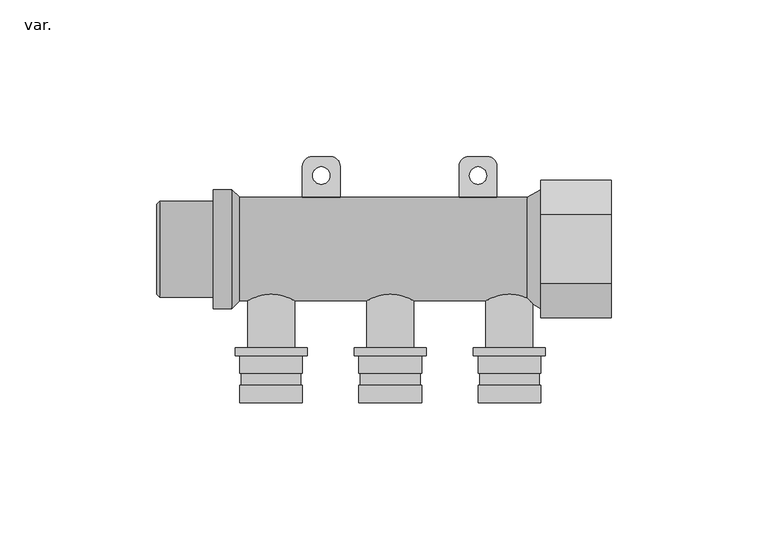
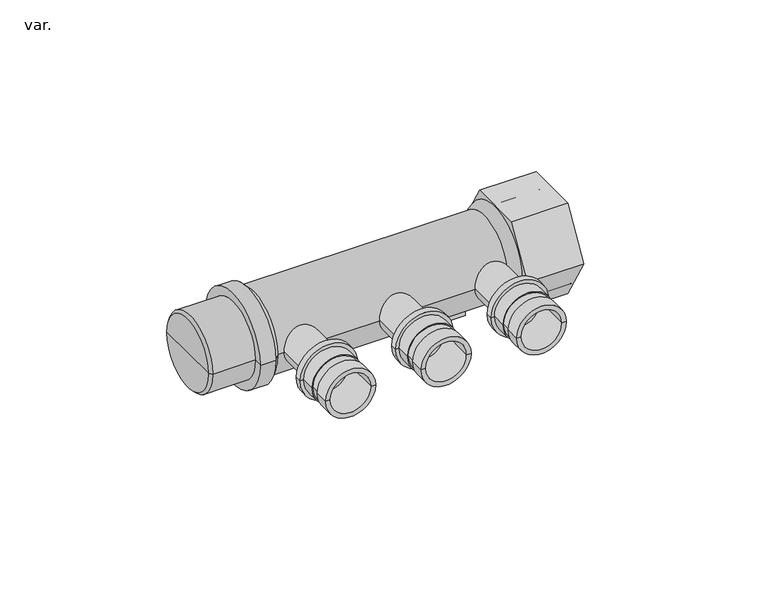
"""IFC4 building model written with IfcOpenShell, lengths in millimetres: pipe fitting geometry, AmancoWavin_ConexõesdeTubos_PEXMódulo de DistribuiçãoAberto1x16mm : var.."""

import ifcopenshell
import ifcopenshell.guid

model = None  # the IFC model being written
_history = None  # IfcOwnerHistory: only IFC2X3 demands one
_inside = {}  # id of a spatial element -> (the spatial element, [elements in it])
_under = {}  # id of a project, library or spatial element -> (it, [spatial elements below it])
_declared = {}  # id of a project -> (the project, [libraries it declares])
_typed = {}  # id of a type object -> (the type object, [elements of that type])
_made_of = {}  # id of a material, layer set ... -> (it, [elements and type objects made of it])


def new_model(schema):
    """Start an empty IFC model of exactly this schema.

    Asked for "IFC4X3", IfcOpenShell would pick the latest addendum, in which some entities
    have other attributes; the version numbers below select the first issue.
    IFC2X3 requires an IfcOwnerHistory on every rooted entity: one is made here for all.
    """
    global model, _history
    if schema == "IFC4X3":
        model = ifcopenshell.file(schema_version=(4, 3, 0, 0))
    else:
        model = ifcopenshell.file(schema=schema)
    _inside.clear()
    _under.clear()
    _declared.clear()
    _typed.clear()
    _made_of.clear()
    _history = None
    if model.schema == "IFC2X3":
        org = make("IfcOrganization", Name="unknown")
        user = make(
            "IfcPersonAndOrganization",
            ThePerson=make("IfcPerson", FamilyName="unknown"),
            TheOrganization=org,
        )
        app = make(
            "IfcApplication",
            ApplicationDeveloper=org,
            Version="unknown",
            ApplicationFullName="unknown",
            ApplicationIdentifier="unknown",
        )
        _history = make(
            "IfcOwnerHistory",
            OwningUser=user,
            OwningApplication=app,
            ChangeAction="ADDED",
            CreationDate=0,
        )
    return model


def make(cls, **values):
    """One entity of the class cls with the attributes given. An attribute that is None is left unset."""
    return model.create_entity(
        cls, **{name: value for name, value in values.items() if value is not None}
    )


def rooted(cls, **values):
    """An entity with a GlobalId (a new one), such as an element, a storey or a relation."""
    return make(cls, GlobalId=ifcopenshell.guid.new(), OwnerHistory=_history, **values)


def si_unit(unit_type, name, prefix=None):
    """IfcSIUnit, for example si_unit("LENGTHUNIT", "METRE", prefix="MILLI")."""
    return make("IfcSIUnit", UnitType=unit_type, Prefix=prefix, Name=name)


def assignment(units):
    """IfcUnitAssignment: the units of a project."""
    return None if units is None else make("IfcUnitAssignment", Units=units)


def point(xyz):
    """IfcCartesianPoint."""
    return None if xyz is None else make("IfcCartesianPoint", Coordinates=xyz)


def direction(xyz):
    """IfcDirection."""
    return None if xyz is None else make("IfcDirection", DirectionRatios=xyz)


def frame(location, z_axis=None, x_axis=None):
    """IfcAxis2Placement3D, a coordinate frame: its origin and axes. An axis left out is left unset."""
    return make(
        "IfcAxis2Placement3D",
        Location=point(location),
        Axis=direction(z_axis),
        RefDirection=direction(x_axis),
    )


def frame_2d(location, x_axis=None):
    """IfcAxis2Placement2D, a coordinate frame in the plane: its origin and x axis."""
    return make(
        "IfcAxis2Placement2D", Location=point(location), RefDirection=direction(x_axis)
    )


def origin():
    """The frame at (0, 0, 0) with its axes left unset."""
    return frame((0.0, 0.0, 0.0))


def origin_2d():
    """The frame at (0, 0) in the plane with its x axis left unset."""
    return frame_2d((0.0, 0.0))


def place(relative_to, where):
    """IfcLocalPlacement: puts the frame where relative to a parent placement (None: the world)."""
    return make(
        "IfcLocalPlacement", PlacementRelTo=relative_to, RelativePlacement=where
    )


def context(
    kind, dimensions, precision=None, world=None, true_north=None, identifier=None
):
    """IfcGeometricRepresentationContext, for example the 3D "Model" context."""
    return make(
        "IfcGeometricRepresentationContext",
        ContextIdentifier=identifier,
        ContextType=kind,
        CoordinateSpaceDimension=dimensions,
        Precision=precision,
        WorldCoordinateSystem=world,
        TrueNorth=true_north,
    )


def project(units=None, contexts=None):
    """IfcProject with its units and contexts."""
    return rooted(
        "IfcProject",
        Name="project",
        RepresentationContexts=contexts,
        UnitsInContext=assignment(units),
    )


def spatial(cls, under=None, at=None, **own):
    """A site, building, storey or space (cls), placed at a placement, below another one or the project."""
    s = rooted(cls, ObjectPlacement=at, **own)
    if under is not None:
        _under.setdefault(under.id(), (under, []))[1].append(s)
    return s


def polyline(points):
    """IfcPolyline through the points."""
    return make("IfcPolyline", Points=[point(p) for p in points])


def circle_curve(where, radius):
    """IfcCircle in the frame where."""
    return make("IfcCircle", Position=where, Radius=radius)


def trimmed(basis, trim1, trim2, sense, master):
    """IfcTrimmedCurve: the piece of a basis curve between two trims."""
    return make(
        "IfcTrimmedCurve",
        BasisCurve=basis,
        Trim1=trim1,
        Trim2=trim2,
        SenseAgreement=sense,
        MasterRepresentation=master,
    )


def segment(curve, same_sense, transition):
    """IfcCompositeCurveSegment."""
    return make(
        "IfcCompositeCurveSegment",
        Transition=transition,
        SameSense=same_sense,
        ParentCurve=curve,
    )


def composite_curve(segments, self_intersect=None):
    """IfcCompositeCurve: segments joined end to end."""
    return make("IfcCompositeCurve", Segments=segments, SelfIntersect=self_intersect)


def outline(outer, holes=None, kind="AREA"):
    """IfcArbitraryClosedProfileDef: a profile drawn as a closed curve; with holes, ...WithVoids."""
    if holes is None:
        return make("IfcArbitraryClosedProfileDef", ProfileType=kind, OuterCurve=outer)
    return make(
        "IfcArbitraryProfileDefWithVoids",
        ProfileType=kind,
        OuterCurve=outer,
        InnerCurves=holes,
    )


def extrude(swept, where, along, depth):
    """IfcExtrudedAreaSolid: the profile swept, set in the frame where, extruded along a direction by depth."""
    return make(
        "IfcExtrudedAreaSolid",
        SweptArea=swept,
        Position=where,
        ExtrudedDirection=direction(along),
        Depth=depth,
    )


def shape(context_of_items, identifier, shape_type, items):
    """IfcShapeRepresentation: the items that make up one representation, for example the "Body"."""
    return make(
        "IfcShapeRepresentation",
        ContextOfItems=context_of_items,
        RepresentationIdentifier=identifier,
        RepresentationType=shape_type,
        Items=items,
    )


def source(mapping_origin, context_of_items, identifier, shape_type, items):
    """IfcRepresentationMap: a shape defined once, which mapped items show again and again."""
    return make(
        "IfcRepresentationMap",
        MappingOrigin=mapping_origin,
        MappedRepresentation=shape(context_of_items, identifier, shape_type, items),
    )


def transform(
    local_origin,
    x_axis=None,
    y_axis=None,
    z_axis=None,
    scale=None,
    scale2=None,
    scale3=None,
    uniform=True,
):
    """IfcCartesianTransformationOperator3D, or its non-uniform kind. x_axis, y_axis, z_axis: its Axis1, 2, 3."""
    if uniform:
        return make(
            "IfcCartesianTransformationOperator3D",
            Axis1=direction(x_axis),
            Axis2=direction(y_axis),
            LocalOrigin=point(local_origin),
            Scale=scale,
            Axis3=direction(z_axis),
        )
    return make(
        "IfcCartesianTransformationOperator3DnonUniform",
        Axis1=direction(x_axis),
        Axis2=direction(y_axis),
        LocalOrigin=point(local_origin),
        Scale=scale,
        Axis3=direction(z_axis),
        Scale2=scale2,
        Scale3=scale3,
    )


def mapped(mapping_source, mapping_target):
    """IfcMappedItem: shows the shape of a source again, moved by a transform."""
    return make(
        "IfcMappedItem", MappingSource=mapping_source, MappingTarget=mapping_target
    )


def made_of(thing, what):
    """Note that an element or type object is made of a material, layer set ...; save() writes the relation."""
    if what is not None:
        _made_of.setdefault(what.id(), (what, []))[1].append(thing)
    return thing


def element(
    cls,
    number,
    at=None,
    inside=None,
    cuts=None,
    type_object=None,
    material=None,
    context=None,
    identifier="Body",
    shape_type=None,
    held_by="IfcProductDefinitionShape",
    body=None,
    shapes=None,
    **own,
):
    """One element of the class cls, such as IfcWall. Its Tag is "e" and its number.

    at: its placement. inside: the storey or other place that contains it. cuts: it is an
    opening in that element (IfcRelVoidsElement). A single representation is given by context,
    identifier, shape_type and body (its items); several are given by shapes. held_by: the class
    of the entity that holds the representations. save() writes the other relations.
    """
    e = rooted(cls, Tag="e%d" % number, ObjectPlacement=at, **own)
    if body is not None:
        shapes = [shape(context, identifier, shape_type, body)]
    if shapes is not None:
        e.Representation = make(held_by, Representations=shapes)
    if inside is not None:
        _inside.setdefault(inside.id(), (inside, []))[1].append(e)
    if cuts is not None:
        rooted(
            "IfcRelVoidsElement", RelatingBuildingElement=cuts, RelatedOpeningElement=e
        )
    if type_object is not None:
        _typed.setdefault(type_object.id(), (type_object, []))[1].append(e)
    return made_of(e, material)


def aggregate(whole, parts):
    """IfcRelAggregates: a whole, such as a stair, and the parts it consists of."""
    return rooted("IfcRelAggregates", RelatingObject=whole, RelatedObjects=parts)


def save(model, path):
    """Write the relations noted so far, then the file.

    IfcRelAggregates (storeys below a building ...), IfcRelContainedInSpatialStructure (elements
    in a storey), IfcRelDefinesByType, IfcRelAssociatesMaterial and IfcRelDeclares: one each for
    every whole, place, type object, material and project.
    """
    for whole, parts in _under.values():
        aggregate(whole, parts)
    for where, things in _inside.values():
        rooted(
            "IfcRelContainedInSpatialStructure",
            RelatedElements=things,
            RelatingStructure=where,
        )
    for kind, things in _typed.values():
        rooted("IfcRelDefinesByType", RelatedObjects=things, RelatingType=kind)
    for what, things in _made_of.values():
        rooted("IfcRelAssociatesMaterial", RelatedObjects=things, RelatingMaterial=what)
    for by, libraries in _declared.values():
        rooted("IfcRelDeclares", RelatingContext=by, RelatedDefinitions=libraries)
    model.write(path)


def plane_surface(at):
    """IfcPlane: the flat surface through the origin of the frame at, square to its z axis."""
    return make("IfcPlane", Position=at)


def cylinder_surface(at, radius):
    """IfcCylindricalSurface: all points at the distance radius from the z axis of the frame at."""
    return make("IfcCylindricalSurface", Position=at, Radius=radius)


def revolved_surface(curve, axis_point, axis_direction):
    """IfcSurfaceOfRevolution: the curve turned about the line through axis_point along axis_direction."""
    return make(
        "IfcSurfaceOfRevolution",
        SweptCurve=make("IfcArbitraryOpenProfileDef", ProfileType="CURVE", Curve=curve),
        AxisPosition=make("IfcAxis1Placement", Location=point(axis_point), Axis=direction(axis_direction)),
    )


def advanced_brep(points, edges, surfaces, faces):
    """IfcAdvancedBrep: a solid bounded by faces that lie on surfaces and meet in shared edges.

    An edge is (start, end): straight between two places in points (the first is 0);
    or (start, end, curve); or (start, end, curve, False) where it runs against its curve.
    A face is (place in surfaces, loops), or (place, loops, False) where it looks against
    its surface's normal. A loop lists edges by number (the first is 1), with a minus sign
    where the edge is run from its end to its start. The first loop is the outer one.
    """
    corners = [point(p) for p in points]
    vertices = [make("IfcVertexPoint", VertexGeometry=c) for c in corners]
    made = []
    for start, end, *more in edges:
        made.append(
            make(
                "IfcEdgeCurve",
                EdgeStart=vertices[start],
                EdgeEnd=vertices[end],
                EdgeGeometry=more[0] if more else make("IfcPolyline", Points=[corners[start], corners[end]]),
                SameSense=more[1] if len(more) > 1 else True,
            )
        )
    hull = []
    for where, loops, *sense in faces:
        bounds = []
        for j, loop in enumerate(loops):
            ring = [make("IfcOrientedEdge", EdgeElement=made[abs(k) - 1], Orientation=k > 0) for k in loop]
            bounds.append(
                make(
                    "IfcFaceOuterBound" if j == 0 else "IfcFaceBound",
                    Bound=make("IfcEdgeLoop", EdgeList=ring),
                    Orientation=True,
                )
            )
        hull.append(make("IfcAdvancedFace", Bounds=bounds, FaceSurface=surfaces[where], SameSense=sense[0] if sense else True))
    return make("IfcAdvancedBrep", Outer=make("IfcClosedShell", CfsFaces=hull))


def var_b4d6ae51(model_context):
    return source(origin(), model_context, "Body", "SolidModel", [
        advanced_brep(
        [(122.5, -49.0, 0.0), (102.5, -49.0, 0.0), (102.5, -43.375, 0.0), (122.5, -43.375, 0.0), (120.675, -49.0, 0.0), (104.325, -49.0, 0.0), (120.675, -34.0, 0.0), (104.325, -34.0, 0.0), (122.5, -34.0, 0.0), (102.5, -34.0, 0.0), (122.5, -39.625, 0.0), (102.5, -39.625, 0.0), (103.0, -43.375, 0.0), (122.0, -43.375, 0.0), (103.0, -39.625, 0.0), (122.0, -39.625, 0.0)],
        [
            (0, 1, circle_curve(frame((112.5, -49.0, 0.0), z_axis=(0.0, 1.0, 0.0), x_axis=(-1.0, 0.0, 0.0)), 10.0)),
            (1, 2),
            (2, 3, circle_curve(frame((112.5, -43.375, 0.0), z_axis=(0.0, -1.0, 0.0), x_axis=(-1.0, 0.0, 0.0)), 10.0)),
            (3, 0),
            (1, 0, circle_curve(frame((112.5, -49.0, 0.0), z_axis=(0.0, 1.0, 0.0), x_axis=(-1.0, 0.0, 0.0)), 10.0)),
            (3, 2, circle_curve(frame((112.5, -43.375, 0.0), z_axis=(0.0, -1.0, 0.0), x_axis=(-1.0, 0.0, 0.0)), 10.0)),
            (0, 4),
            (4, 5, circle_curve(frame((112.5, -49.0, 0.0), z_axis=(0.0, 1.0, 0.0), x_axis=(-1.0, 0.0, 0.0)), 8.175)),
            (5, 1),
            (5, 4, circle_curve(frame((112.5, -49.0, 0.0), z_axis=(0.0, 1.0, 0.0), x_axis=(-1.0, 0.0, 0.0)), 8.175)),
            (4, 6),
            (6, 7, circle_curve(frame((112.5, -34.0, 0.0), z_axis=(0.0, 1.0, 0.0), x_axis=(-1.0, 0.0, 0.0)), 8.175)),
            (7, 5),
            (7, 6, circle_curve(frame((112.5, -34.0, 0.0), z_axis=(0.0, 1.0, 0.0), x_axis=(-1.0, 0.0, 0.0)), 8.175)),
            (6, 8),
            (8, 9, circle_curve(frame((112.5, -34.0, 0.0), z_axis=(0.0, 1.0, 0.0), x_axis=(-1.0, 0.0, 0.0)), 10.0)),
            (9, 7),
            (9, 8, circle_curve(frame((112.5, -34.0, 0.0), z_axis=(0.0, 1.0, 0.0), x_axis=(-1.0, 0.0, 0.0)), 10.0)),
            (8, 10),
            (10, 11, circle_curve(frame((112.5, -39.625, 0.0), z_axis=(0.0, 1.0, 0.0), x_axis=(-1.0, 0.0, 0.0)), 10.0)),
            (11, 9),
            (11, 10, circle_curve(frame((112.5, -39.625, 0.0), z_axis=(0.0, 1.0, 0.0), x_axis=(-1.0, 0.0, 0.0)), 10.0)),
            (12, 13, circle_curve(frame((112.5, -43.375, 0.0), z_axis=(0.0, -1.0, 0.0), x_axis=(-1.0, 0.0, 0.0)), 9.5)),
            (13, 3),
            (2, 12),
            (13, 12, circle_curve(frame((112.5, -43.375, 0.0), z_axis=(0.0, -1.0, 0.0), x_axis=(-1.0, 0.0, 0.0)), 9.5)),
            (12, 14),
            (14, 15, circle_curve(frame((112.5, -39.625, 0.0), z_axis=(0.0, -1.0, 0.0), x_axis=(-1.0, 0.0, 0.0)), 9.5)),
            (15, 13),
            (15, 14, circle_curve(frame((112.5, -39.625, 0.0), z_axis=(0.0, -1.0, 0.0), x_axis=(-1.0, 0.0, 0.0)), 9.5)),
            (14, 11),
            (10, 15),
        ],
        [
            cylinder_surface(frame((112.5, -2043.1007619, 0.0), z_axis=(0.0, -1.0, 0.0), x_axis=(-1.0, 0.0, 0.0)), 10.0),
            plane_surface(frame((112.5, -49.0, 0.0), z_axis=(0.0, -1.0, 0.0), x_axis=(-1.0, 0.0, 0.0))),
            revolved_surface(polyline([(104.325, -49.0, 0.0), (104.325, -34.0, 0.0)]), (112.5, -2043.1007619, 0.0), (0.0, -1.0, 0.0)),
            plane_surface(frame((112.5, -34.0, 0.0), z_axis=(0.0, 1.0, 0.0), x_axis=(-1.0, 0.0, 0.0))),
            plane_surface(frame((112.5, -43.375, 0.0), z_axis=(0.0, 1.0, 0.0), x_axis=(-1.0, 0.0, 0.0))),
            cylinder_surface(frame((112.5, -2043.1007619, 0.0), z_axis=(0.0, -1.0, 0.0), x_axis=(-1.0, 0.0, 0.0)), 9.5),
            plane_surface(frame((112.5, -39.625, 0.0), z_axis=(0.0, -1.0, 0.0), x_axis=(-1.0, 0.0, 0.0))),
        ],
        [
            (0, [[1, 2, 3, 4]]),
            (0, [[5, -4, 6, -2]]),
            (1, [[-1, 7, 8, 9]]),
            (1, [[-5, -9, 10, -7]]),
            (2, [[-8, 11, 12, 13]]),
            (2, [[-10, -13, 14, -11]]),
            (3, [[-12, 15, 16, 17]]),
            (3, [[-14, -17, 18, -15]]),
            (0, [[-16, 19, 20, 21]]),
            (0, [[-18, -21, 22, -19]]),
            (4, [[23, 24, -3, 25]]),
            (4, [[26, -25, -6, -24]]),
            (5, [[-23, 27, 28, 29]]),
            (5, [[-26, -29, 30, -27]]),
            (6, [[-28, 31, -20, 32]]),
            (6, [[-30, -32, -22, -31]]),
        ],
    ),
        advanced_brep(
        [(84.5, -49.0, 0.0), (64.5, -49.0, 0.0), (64.5, -43.375, 0.0), (84.5, -43.375, 0.0), (82.675, -49.0, 0.0), (66.325, -49.0, 0.0), (82.675, -34.0, 0.0), (66.325, -34.0, 0.0), (84.5, -34.0, 0.0), (64.5, -34.0, 0.0), (84.5, -39.625, 0.0), (64.5, -39.625, 0.0), (65.0, -43.375, 0.0), (84.0, -43.375, 0.0), (65.0, -39.625, 0.0), (84.0, -39.625, 0.0)],
        [
            (0, 1, circle_curve(frame((74.5, -49.0, 0.0), z_axis=(0.0, 1.0, 0.0), x_axis=(-1.0, 0.0, 0.0)), 10.0)),
            (1, 2),
            (2, 3, circle_curve(frame((74.5, -43.375, 0.0), z_axis=(0.0, -1.0, 0.0), x_axis=(-1.0, 0.0, 0.0)), 10.0)),
            (3, 0),
            (1, 0, circle_curve(frame((74.5, -49.0, 0.0), z_axis=(0.0, 1.0, 0.0), x_axis=(-1.0, 0.0, 0.0)), 10.0)),
            (3, 2, circle_curve(frame((74.5, -43.375, 0.0), z_axis=(0.0, -1.0, 0.0), x_axis=(-1.0, 0.0, 0.0)), 10.0)),
            (0, 4),
            (4, 5, circle_curve(frame((74.5, -49.0, 0.0), z_axis=(0.0, 1.0, 0.0), x_axis=(-1.0, 0.0, 0.0)), 8.175)),
            (5, 1),
            (5, 4, circle_curve(frame((74.5, -49.0, 0.0), z_axis=(0.0, 1.0, 0.0), x_axis=(-1.0, 0.0, 0.0)), 8.175)),
            (4, 6),
            (6, 7, circle_curve(frame((74.5, -34.0, 0.0), z_axis=(0.0, 1.0, 0.0), x_axis=(-1.0, 0.0, 0.0)), 8.175)),
            (7, 5),
            (7, 6, circle_curve(frame((74.5, -34.0, 0.0), z_axis=(0.0, 1.0, 0.0), x_axis=(-1.0, 0.0, 0.0)), 8.175)),
            (6, 8),
            (8, 9, circle_curve(frame((74.5, -34.0, 0.0), z_axis=(0.0, 1.0, 0.0), x_axis=(-1.0, 0.0, 0.0)), 10.0)),
            (9, 7),
            (9, 8, circle_curve(frame((74.5, -34.0, 0.0), z_axis=(0.0, 1.0, 0.0), x_axis=(-1.0, 0.0, 0.0)), 10.0)),
            (8, 10),
            (10, 11, circle_curve(frame((74.5, -39.625, 0.0), z_axis=(0.0, 1.0, 0.0), x_axis=(-1.0, 0.0, 0.0)), 10.0)),
            (11, 9),
            (11, 10, circle_curve(frame((74.5, -39.625, 0.0), z_axis=(0.0, 1.0, 0.0), x_axis=(-1.0, 0.0, 0.0)), 10.0)),
            (12, 13, circle_curve(frame((74.5, -43.375, 0.0), z_axis=(0.0, -1.0, 0.0), x_axis=(-1.0, 0.0, 0.0)), 9.5)),
            (13, 3),
            (2, 12),
            (13, 12, circle_curve(frame((74.5, -43.375, 0.0), z_axis=(0.0, -1.0, 0.0), x_axis=(-1.0, 0.0, 0.0)), 9.5)),
            (12, 14),
            (14, 15, circle_curve(frame((74.5, -39.625, 0.0), z_axis=(0.0, -1.0, 0.0), x_axis=(-1.0, 0.0, 0.0)), 9.5)),
            (15, 13),
            (15, 14, circle_curve(frame((74.5, -39.625, 0.0), z_axis=(0.0, -1.0, 0.0), x_axis=(-1.0, 0.0, 0.0)), 9.5)),
            (14, 11),
            (10, 15),
        ],
        [
            cylinder_surface(frame((74.5, -2043.1007619, 0.0), z_axis=(0.0, -1.0, 0.0), x_axis=(-1.0, 0.0, 0.0)), 10.0),
            plane_surface(frame((74.5, -49.0, 0.0), z_axis=(0.0, -1.0, 0.0), x_axis=(-1.0, 0.0, 0.0))),
            revolved_surface(polyline([(66.325, -49.0, 0.0), (66.325, -34.0, 0.0)]), (74.5, -2043.1007619, 0.0), (0.0, -1.0, 0.0)),
            plane_surface(frame((74.5, -34.0, 0.0), z_axis=(0.0, 1.0, 0.0), x_axis=(-1.0, 0.0, 0.0))),
            plane_surface(frame((74.5, -43.375, 0.0), z_axis=(0.0, 1.0, 0.0), x_axis=(-1.0, 0.0, 0.0))),
            cylinder_surface(frame((74.5, -2043.1007619, 0.0), z_axis=(0.0, -1.0, 0.0), x_axis=(-1.0, 0.0, 0.0)), 9.5),
            plane_surface(frame((74.5, -39.625, 0.0), z_axis=(0.0, -1.0, 0.0), x_axis=(-1.0, 0.0, 0.0))),
        ],
        [
            (0, [[1, 2, 3, 4]]),
            (0, [[5, -4, 6, -2]]),
            (1, [[-1, 7, 8, 9]]),
            (1, [[-5, -9, 10, -7]]),
            (2, [[-8, 11, 12, 13]]),
            (2, [[-10, -13, 14, -11]]),
            (3, [[-12, 15, 16, 17]]),
            (3, [[-14, -17, 18, -15]]),
            (0, [[-16, 19, 20, 21]]),
            (0, [[-18, -21, 22, -19]]),
            (4, [[23, 24, -3, 25]]),
            (4, [[26, -25, -6, -24]]),
            (5, [[-23, 27, 28, 29]]),
            (5, [[-26, -29, 30, -27]]),
            (6, [[-28, 31, -20, 32]]),
            (6, [[-30, -32, -22, -31]]),
        ],
    ),
        advanced_brep(
        [(46.5, -49.0, 0.0), (26.5, -49.0, 0.0), (26.5, -43.375, 0.0), (46.5, -43.375, 0.0), (44.675, -49.0, 0.0), (28.325, -49.0, 0.0), (44.675, -34.0, 0.0), (28.325, -34.0, 0.0), (46.5, -34.0, 0.0), (26.5, -34.0, 0.0), (46.5, -39.625, 0.0), (26.5, -39.625, 0.0), (27.0, -43.375, 0.0), (46.0, -43.375, 0.0), (27.0, -39.625, 0.0), (46.0, -39.625, 0.0)],
        [
            (0, 1, circle_curve(frame((36.5, -49.0, 0.0), z_axis=(0.0, 1.0, 0.0), x_axis=(-1.0, 0.0, 0.0)), 10.0)),
            (1, 2),
            (2, 3, circle_curve(frame((36.5, -43.375, 0.0), z_axis=(0.0, -1.0, 0.0), x_axis=(-1.0, 0.0, 0.0)), 10.0)),
            (3, 0),
            (1, 0, circle_curve(frame((36.5, -49.0, 0.0), z_axis=(0.0, 1.0, 0.0), x_axis=(-1.0, 0.0, 0.0)), 10.0)),
            (3, 2, circle_curve(frame((36.5, -43.375, 0.0), z_axis=(0.0, -1.0, 0.0), x_axis=(-1.0, 0.0, 0.0)), 10.0)),
            (0, 4),
            (4, 5, circle_curve(frame((36.5, -49.0, 0.0), z_axis=(0.0, 1.0, 0.0), x_axis=(-1.0, 0.0, 0.0)), 8.175)),
            (5, 1),
            (5, 4, circle_curve(frame((36.5, -49.0, 0.0), z_axis=(0.0, 1.0, 0.0), x_axis=(-1.0, 0.0, 0.0)), 8.175)),
            (4, 6),
            (6, 7, circle_curve(frame((36.5, -34.0, 0.0), z_axis=(0.0, 1.0, 0.0), x_axis=(-1.0, 0.0, 0.0)), 8.175)),
            (7, 5),
            (7, 6, circle_curve(frame((36.5, -34.0, 0.0), z_axis=(0.0, 1.0, 0.0), x_axis=(-1.0, 0.0, 0.0)), 8.175)),
            (6, 8),
            (8, 9, circle_curve(frame((36.5, -34.0, 0.0), z_axis=(0.0, 1.0, 0.0), x_axis=(-1.0, 0.0, 0.0)), 10.0)),
            (9, 7),
            (9, 8, circle_curve(frame((36.5, -34.0, 0.0), z_axis=(0.0, 1.0, 0.0), x_axis=(-1.0, 0.0, 0.0)), 10.0)),
            (8, 10),
            (10, 11, circle_curve(frame((36.5, -39.625, 0.0), z_axis=(0.0, 1.0, 0.0), x_axis=(-1.0, 0.0, 0.0)), 10.0)),
            (11, 9),
            (11, 10, circle_curve(frame((36.5, -39.625, 0.0), z_axis=(0.0, 1.0, 0.0), x_axis=(-1.0, 0.0, 0.0)), 10.0)),
            (12, 13, circle_curve(frame((36.5, -43.375, 0.0), z_axis=(0.0, -1.0, 0.0), x_axis=(-1.0, 0.0, 0.0)), 9.5)),
            (13, 3),
            (2, 12),
            (13, 12, circle_curve(frame((36.5, -43.375, 0.0), z_axis=(0.0, -1.0, 0.0), x_axis=(-1.0, 0.0, 0.0)), 9.5)),
            (12, 14),
            (14, 15, circle_curve(frame((36.5, -39.625, 0.0), z_axis=(0.0, -1.0, 0.0), x_axis=(-1.0, 0.0, 0.0)), 9.5)),
            (15, 13),
            (15, 14, circle_curve(frame((36.5, -39.625, 0.0), z_axis=(0.0, -1.0, 0.0), x_axis=(-1.0, 0.0, 0.0)), 9.5)),
            (14, 11),
            (10, 15),
        ],
        [
            cylinder_surface(frame((36.5, -2043.1007619, 0.0), z_axis=(0.0, -1.0, 0.0), x_axis=(-1.0, 0.0, 0.0)), 10.0),
            plane_surface(frame((36.5, -49.0, 0.0), z_axis=(0.0, -1.0, 0.0), x_axis=(-1.0, 0.0, 0.0))),
            revolved_surface(polyline([(28.325, -49.0, 0.0), (28.325, -34.0, 0.0)]), (36.5, -2043.1007619, 0.0), (0.0, -1.0, 0.0)),
            plane_surface(frame((36.5, -34.0, 0.0), z_axis=(0.0, 1.0, 0.0), x_axis=(-1.0, 0.0, 0.0))),
            plane_surface(frame((36.5, -43.375, 0.0), z_axis=(0.0, 1.0, 0.0), x_axis=(-1.0, 0.0, 0.0))),
            cylinder_surface(frame((36.5, -2043.1007619, 0.0), z_axis=(0.0, -1.0, 0.0), x_axis=(-1.0, 0.0, 0.0)), 9.5),
            plane_surface(frame((36.5, -39.625, 0.0), z_axis=(0.0, -1.0, 0.0), x_axis=(-1.0, 0.0, 0.0))),
        ],
        [
            (0, [[1, 2, 3, 4]]),
            (0, [[5, -4, 6, -2]]),
            (1, [[-1, 7, 8, 9]]),
            (1, [[-5, -9, 10, -7]]),
            (2, [[-8, 11, 12, 13]]),
            (2, [[-10, -13, 14, -11]]),
            (3, [[-12, 15, 16, 17]]),
            (3, [[-14, -17, 18, -15]]),
            (0, [[-16, 19, 20, 21]]),
            (0, [[-18, -21, 22, -19]]),
            (4, [[23, 24, -3, 25]]),
            (4, [[26, -25, -6, -24]]),
            (5, [[-23, 27, 28, 29]]),
            (5, [[-26, -29, 30, -27]]),
            (6, [[-28, 31, -20, 32]]),
            (6, [[-30, -32, -22, -31]]),
        ],
    ),
        advanced_brep(
        [(120.0, 0.0, 0.0), (105.0, 0.0, 0.0), (112.5, 0.0, 0.0), (120.0, -31.5, 0.0), (105.0, -31.5, 0.0), (124.0, -31.5, 0.0), (101.0, -31.5, 0.0), (124.0, -34.0, 0.0), (101.0, -34.0, 0.0), (112.5, -34.0, 0.0)],
        [
            (0, 1, circle_curve(frame((112.5, 0.0, 0.0), z_axis=(0.0, 1.0, 0.0), x_axis=(-1.0, 0.0, 0.0)), 7.5)),
            (1, 2),
            (2, 0),
            (1, 0, circle_curve(frame((112.5, 0.0, 0.0), z_axis=(0.0, 1.0, 0.0), x_axis=(-1.0, 0.0, 0.0)), 7.5)),
            (3, 4, circle_curve(frame((112.5, -31.5, 0.0), z_axis=(0.0, 1.0, 0.0), x_axis=(-1.0, 0.0, 0.0)), 7.5)),
            (4, 1),
            (0, 3),
            (4, 3, circle_curve(frame((112.5, -31.5, 0.0), z_axis=(0.0, 1.0, 0.0), x_axis=(-1.0, 0.0, 0.0)), 7.5)),
            (5, 6, circle_curve(frame((112.5, -31.5, 0.0), z_axis=(0.0, 1.0, 0.0), x_axis=(-1.0, 0.0, 0.0)), 11.5)),
            (6, 4),
            (3, 5),
            (6, 5, circle_curve(frame((112.5, -31.5, 0.0), z_axis=(0.0, 1.0, 0.0), x_axis=(-1.0, 0.0, 0.0)), 11.5)),
            (7, 8, circle_curve(frame((112.5, -34.0, 0.0), z_axis=(0.0, 1.0, 0.0), x_axis=(-1.0, 0.0, 0.0)), 11.5)),
            (8, 6),
            (5, 7),
            (8, 7, circle_curve(frame((112.5, -34.0, 0.0), z_axis=(0.0, 1.0, 0.0), x_axis=(-1.0, 0.0, 0.0)), 11.5)),
            (9, 8),
            (7, 9),
        ],
        [
            plane_surface(frame((112.5, 0.0, 0.0), z_axis=(0.0, 1.0, 0.0), x_axis=(-1.0, 0.0, 0.0))),
            cylinder_surface(frame((112.5, 0.0, 0.0), z_axis=(0.0, -1.0, 0.0), x_axis=(-1.0, 0.0, 0.0)), 7.5),
            plane_surface(frame((112.5, -31.5, 0.0), z_axis=(0.0, 1.0, 0.0), x_axis=(-1.0, 0.0, 0.0))),
            cylinder_surface(frame((112.5, 0.0, 0.0), z_axis=(0.0, -1.0, 0.0), x_axis=(-1.0, 0.0, 0.0)), 11.5),
            plane_surface(frame((112.5, -34.0, 0.0), z_axis=(0.0, -1.0, 0.0), x_axis=(-1.0, 0.0, 0.0))),
        ],
        [
            (0, [[1, 2, 3]]),
            (0, [[4, -3, -2]]),
            (1, [[5, 6, -1, 7]]),
            (1, [[8, -7, -4, -6]]),
            (2, [[9, 10, -5, 11]]),
            (2, [[12, -11, -8, -10]]),
            (3, [[13, 14, -9, 15]]),
            (3, [[16, -15, -12, -14]]),
            (4, [[17, -13, 18]]),
            (4, [[-18, -16, -17]]),
        ],
    ),
        advanced_brep(
        [(82.0, 0.0, 0.0), (67.0, 0.0, 0.0), (74.5, 0.0, 0.0), (82.0, -31.5, 0.0), (67.0, -31.5, 0.0), (86.0, -31.5, 0.0), (63.0, -31.5, 0.0), (86.0, -34.0, 0.0), (63.0, -34.0, 0.0), (74.5, -34.0, 0.0)],
        [
            (0, 1, circle_curve(frame((74.5, 0.0, 0.0), z_axis=(0.0, 1.0, 0.0), x_axis=(-1.0, 0.0, 0.0)), 7.5)),
            (1, 2),
            (2, 0),
            (1, 0, circle_curve(frame((74.5, 0.0, 0.0), z_axis=(0.0, 1.0, 0.0), x_axis=(-1.0, 0.0, 0.0)), 7.5)),
            (3, 4, circle_curve(frame((74.5, -31.5, 0.0), z_axis=(0.0, 1.0, 0.0), x_axis=(-1.0, 0.0, 0.0)), 7.5)),
            (4, 1),
            (0, 3),
            (4, 3, circle_curve(frame((74.5, -31.5, 0.0), z_axis=(0.0, 1.0, 0.0), x_axis=(-1.0, 0.0, 0.0)), 7.5)),
            (5, 6, circle_curve(frame((74.5, -31.5, 0.0), z_axis=(0.0, 1.0, 0.0), x_axis=(-1.0, 0.0, 0.0)), 11.5)),
            (6, 4),
            (3, 5),
            (6, 5, circle_curve(frame((74.5, -31.5, 0.0), z_axis=(0.0, 1.0, 0.0), x_axis=(-1.0, 0.0, 0.0)), 11.5)),
            (7, 8, circle_curve(frame((74.5, -34.0, 0.0), z_axis=(0.0, 1.0, 0.0), x_axis=(-1.0, 0.0, 0.0)), 11.5)),
            (8, 6),
            (5, 7),
            (8, 7, circle_curve(frame((74.5, -34.0, 0.0), z_axis=(0.0, 1.0, 0.0), x_axis=(-1.0, 0.0, 0.0)), 11.5)),
            (9, 8),
            (7, 9),
        ],
        [
            plane_surface(frame((74.5, 0.0, 0.0), z_axis=(0.0, 1.0, 0.0), x_axis=(-1.0, 0.0, 0.0))),
            cylinder_surface(frame((74.5, 0.0, 0.0), z_axis=(0.0, -1.0, 0.0), x_axis=(-1.0, 0.0, 0.0)), 7.5),
            plane_surface(frame((74.5, -31.5, 0.0), z_axis=(0.0, 1.0, 0.0), x_axis=(-1.0, 0.0, 0.0))),
            cylinder_surface(frame((74.5, 0.0, 0.0), z_axis=(0.0, -1.0, 0.0), x_axis=(-1.0, 0.0, 0.0)), 11.5),
            plane_surface(frame((74.5, -34.0, 0.0), z_axis=(0.0, -1.0, 0.0), x_axis=(-1.0, 0.0, 0.0))),
        ],
        [
            (0, [[1, 2, 3]]),
            (0, [[4, -3, -2]]),
            (1, [[5, 6, -1, 7]]),
            (1, [[8, -7, -4, -6]]),
            (2, [[9, 10, -5, 11]]),
            (2, [[12, -11, -8, -10]]),
            (3, [[13, 14, -9, 15]]),
            (3, [[16, -15, -12, -14]]),
            (4, [[17, -13, 18]]),
            (4, [[-18, -16, -17]]),
        ],
    ),
        advanced_brep(
        [(44.0, 0.0, 0.0), (29.0, 0.0, 0.0), (36.5, 0.0, 0.0), (44.0, -31.5, 0.0), (29.0, -31.5, 0.0), (48.0, -31.5, 0.0), (25.0, -31.5, 0.0), (48.0, -34.0, 0.0), (25.0, -34.0, 0.0), (36.5, -34.0, 0.0)],
        [
            (0, 1, circle_curve(frame((36.5, 0.0, 0.0), z_axis=(0.0, 1.0, 0.0), x_axis=(-1.0, 0.0, 0.0)), 7.5)),
            (1, 2),
            (2, 0),
            (1, 0, circle_curve(frame((36.5, 0.0, 0.0), z_axis=(0.0, 1.0, 0.0), x_axis=(-1.0, 0.0, 0.0)), 7.5)),
            (3, 4, circle_curve(frame((36.5, -31.5, 0.0), z_axis=(0.0, 1.0, 0.0), x_axis=(-1.0, 0.0, 0.0)), 7.5)),
            (4, 1),
            (0, 3),
            (4, 3, circle_curve(frame((36.5, -31.5, 0.0), z_axis=(0.0, 1.0, 0.0), x_axis=(-1.0, 0.0, 0.0)), 7.5)),
            (5, 6, circle_curve(frame((36.5, -31.5, 0.0), z_axis=(0.0, 1.0, 0.0), x_axis=(-1.0, 0.0, 0.0)), 11.5)),
            (6, 4),
            (3, 5),
            (6, 5, circle_curve(frame((36.5, -31.5, 0.0), z_axis=(0.0, 1.0, 0.0), x_axis=(-1.0, 0.0, 0.0)), 11.5)),
            (7, 8, circle_curve(frame((36.5, -34.0, 0.0), z_axis=(0.0, 1.0, 0.0), x_axis=(-1.0, 0.0, 0.0)), 11.5)),
            (8, 6),
            (5, 7),
            (8, 7, circle_curve(frame((36.5, -34.0, 0.0), z_axis=(0.0, 1.0, 0.0), x_axis=(-1.0, 0.0, 0.0)), 11.5)),
            (9, 8),
            (7, 9),
        ],
        [
            plane_surface(frame((36.5, 0.0, 0.0), z_axis=(0.0, 1.0, 0.0), x_axis=(-1.0, 0.0, 0.0))),
            cylinder_surface(frame((36.5, 0.0, 0.0), z_axis=(0.0, -1.0, 0.0), x_axis=(-1.0, 0.0, 0.0)), 7.5),
            plane_surface(frame((36.5, -31.5, 0.0), z_axis=(0.0, 1.0, 0.0), x_axis=(-1.0, 0.0, 0.0))),
            cylinder_surface(frame((36.5, 0.0, 0.0), z_axis=(0.0, -1.0, 0.0), x_axis=(-1.0, 0.0, 0.0)), 11.5),
            plane_surface(frame((36.5, -34.0, 0.0), z_axis=(0.0, -1.0, 0.0), x_axis=(-1.0, 0.0, 0.0))),
        ],
        [
            (0, [[1, 2, 3]]),
            (0, [[4, -3, -2]]),
            (1, [[5, 6, -1, 7]]),
            (1, [[8, -7, -4, -6]]),
            (2, [[9, 10, -5, 11]]),
            (2, [[12, -11, -8, -10]]),
            (3, [[13, 14, -9, 15]]),
            (3, [[16, -15, -12, -14]]),
            (4, [[17, -13, 18]]),
            (4, [[-18, -16, -17]]),
        ],
    ),
        advanced_brep(
        [(96.5, -3.5, 0.0), (108.5, -3.5, 0.0), (108.5, 16.5, 0.0), (96.5, 16.5, 0.0), (96.5, 26.5, -20.0), (99.5, 29.5, -20.0), (105.5, 29.5, -20.0), (108.5, 26.5, -20.0), (108.5, -3.5, -20.0), (96.5, -3.5, -20.0), (99.75, 23.5, -20.0), (105.25, 23.5, -20.0), (108.5, 26.5, -16.5), (108.5, 16.5, -16.5), (96.5, 16.5, -16.5), (96.5, 26.5, -16.5), (105.5, 29.5, -16.5), (99.5, 29.5, -16.5), (99.75, 23.5, -16.5), (105.25, 23.5, -16.5)],
        [
            (0, 1),
            (1, 2),
            (2, 3),
            (3, 0),
            (4, 5, circle_curve(frame((99.5, 26.5, -20.0), z_axis=(0.0, 0.0, -1.0), x_axis=(1.0, 0.0, 0.0)), 3.0)),
            (5, 6),
            (6, 7, circle_curve(frame((105.5, 26.5, -20.0), z_axis=(0.0, 0.0, -1.0), x_axis=(1.0, 0.0, 0.0)), 3.0)),
            (7, 8),
            (8, 9),
            (9, 4),
            (10, 11, circle_curve(frame((102.5, 23.5, -20.0), z_axis=(0.0, 0.0, 1.0), x_axis=(1.0, 0.0, 0.0)), 2.75)),
            (11, 10, circle_curve(frame((102.5, 23.5, -20.0), z_axis=(0.0, 0.0, 1.0), x_axis=(1.0, 0.0, 0.0)), 2.75)),
            (8, 1),
            (0, 9),
            (7, 12),
            (12, 13),
            (13, 2),
            (13, 14),
            (14, 3),
            (14, 15),
            (15, 4),
            (16, 17),
            (17, 15, circle_curve(frame((99.5, 26.5, -16.5), z_axis=(0.0, 0.0, 1.0), x_axis=(1.0, 0.0, 0.0)), 3.0)),
            (12, 16, circle_curve(frame((105.5, 26.5, -16.5), z_axis=(0.0, 0.0, 1.0), x_axis=(1.0, 0.0, 0.0)), 3.0)),
            (18, 19, circle_curve(frame((102.5, 23.5, -16.5), z_axis=(0.0, 0.0, -1.0), x_axis=(1.0, 0.0, 0.0)), 2.75)),
            (19, 18, circle_curve(frame((102.5, 23.5, -16.5), z_axis=(0.0, 0.0, -1.0), x_axis=(1.0, 0.0, 0.0)), 2.75)),
            (5, 17),
            (16, 6),
            (11, 19),
            (18, 10),
        ],
        [
            plane_surface(frame((108.5, -3.5, 0.0), z_axis=(0.0, 0.0, 1.0), x_axis=(1.0, 0.0, 0.0))),
            plane_surface(frame((108.5, -3.5, -20.0), z_axis=(0.0, 0.0, -1.0), x_axis=(-1.0, 0.0, 0.0))),
            plane_surface(frame((96.5, -3.5, 0.0), z_axis=(0.0, -1.0, 0.0), x_axis=(0.0, 0.0, -1.0))),
            plane_surface(frame((108.5, -3.5, 0.0), z_axis=(1.0, 0.0, 0.0), x_axis=(0.0, 0.0, -1.0))),
            plane_surface(frame((108.5, 16.5, 0.0), z_axis=(0.0, 1.0, 0.0), x_axis=(0.0, 0.0, -1.0))),
            plane_surface(frame((96.5, 16.5, 0.0), z_axis=(-1.0, 0.0, 0.0), x_axis=(0.0, 0.0, -1.0))),
            plane_surface(frame((99.5, 29.5, -16.5), z_axis=(0.0, 0.0, 1.0), x_axis=(-1.0, 0.0, 0.0))),
            plane_surface(frame((105.5, 29.5, -16.5), z_axis=(0.0, 1.0, 0.0), x_axis=(0.0, 0.0, -1.0))),
            cylinder_surface(frame((99.5, 26.5, -20.0), z_axis=(0.0, 0.0, 1.0), x_axis=(1.0, 0.0, 0.0)), 3.0),
            cylinder_surface(frame((105.5, 26.5, -20.0), z_axis=(0.0, 0.0, 1.0), x_axis=(1.0, 0.0, 0.0)), 3.0),
            revolved_surface(polyline([(105.25, 23.5, -20.0), (105.25, 23.5, -16.5)]), (102.5, 23.5, 0.0), (0.0, 0.0, -1.0)),
        ],
        [
            (0, [[1, 2, 3, 4]]),
            (1, [[5, 6, 7, 8, 9, 10], [11, 12]]),
            (2, [[13, -1, 14, -9]]),
            (3, [[-2, -13, -8, 15, 16, 17]]),
            (4, [[-3, -17, 18, 19]]),
            (5, [[-4, -19, 20, 21, -10, -14]]),
            (6, [[22, 23, -20, -18, -16, 24], [25, 26]]),
            (7, [[-6, 27, -22, 28]]),
            (8, [[-5, -21, -23, -27]]),
            (9, [[-7, -28, -24, -15]]),
            (10, [[-12, 29, -25, 30]]),
            (10, [[-11, -30, -26, -29]]),
        ],
    ),
        advanced_brep(
        [(46.5, -3.5, 0.0), (58.5, -3.5, 0.0), (58.5, 16.5, 0.0), (46.5, 16.5, 0.0), (46.5, 26.5, -20.0), (49.5, 29.5, -20.0), (55.5, 29.5, -20.0), (58.5, 26.5, -20.0), (58.5, -3.5, -20.0), (46.5, -3.5, -20.0), (49.75, 23.5, -20.0), (55.25, 23.5, -20.0), (58.5, 26.5, -16.5), (58.5, 16.5, -16.5), (46.5, 16.5, -16.5), (46.5, 26.5, -16.5), (55.5, 29.5, -16.5), (49.5, 29.5, -16.5), (49.75, 23.5, -16.5), (55.25, 23.5, -16.5)],
        [
            (0, 1),
            (1, 2),
            (2, 3),
            (3, 0),
            (4, 5, circle_curve(frame((49.5, 26.5, -20.0), z_axis=(0.0, 0.0, -1.0), x_axis=(1.0, 0.0, 0.0)), 3.0)),
            (5, 6),
            (6, 7, circle_curve(frame((55.5, 26.5, -20.0), z_axis=(0.0, 0.0, -1.0), x_axis=(1.0, 0.0, 0.0)), 3.0)),
            (7, 8),
            (8, 9),
            (9, 4),
            (10, 11, circle_curve(frame((52.5, 23.5, -20.0), z_axis=(0.0, 0.0, 1.0), x_axis=(1.0, 0.0, 0.0)), 2.75)),
            (11, 10, circle_curve(frame((52.5, 23.5, -20.0), z_axis=(0.0, 0.0, 1.0), x_axis=(1.0, 0.0, 0.0)), 2.75)),
            (8, 1),
            (0, 9),
            (7, 12),
            (12, 13),
            (13, 2),
            (13, 14),
            (14, 3),
            (14, 15),
            (15, 4),
            (16, 17),
            (17, 15, circle_curve(frame((49.5, 26.5, -16.5), z_axis=(0.0, 0.0, 1.0), x_axis=(1.0, 0.0, 0.0)), 3.0)),
            (12, 16, circle_curve(frame((55.5, 26.5, -16.5), z_axis=(0.0, 0.0, 1.0), x_axis=(1.0, 0.0, 0.0)), 3.0)),
            (18, 19, circle_curve(frame((52.5, 23.5, -16.5), z_axis=(0.0, 0.0, -1.0), x_axis=(1.0, 0.0, 0.0)), 2.75)),
            (19, 18, circle_curve(frame((52.5, 23.5, -16.5), z_axis=(0.0, 0.0, -1.0), x_axis=(1.0, 0.0, 0.0)), 2.75)),
            (16, 6),
            (5, 17),
            (18, 10),
            (11, 19),
        ],
        [
            plane_surface(frame((58.5, -3.5, 0.0), z_axis=(0.0, 0.0, 1.0), x_axis=(1.0, 0.0, 0.0))),
            plane_surface(frame((58.5, -3.5, -20.0), z_axis=(0.0, 0.0, -1.0), x_axis=(-1.0, 0.0, 0.0))),
            plane_surface(frame((46.5, -3.5, 0.0), z_axis=(0.0, -1.0, 0.0), x_axis=(0.0, 0.0, -1.0))),
            plane_surface(frame((58.5, -3.5, 0.0), z_axis=(1.0, 0.0, 0.0), x_axis=(0.0, 0.0, -1.0))),
            plane_surface(frame((58.5, 16.5, 0.0), z_axis=(0.0, 1.0, 0.0), x_axis=(0.0, 0.0, -1.0))),
            plane_surface(frame((46.5, 16.5, 0.0), z_axis=(-1.0, 0.0, 0.0), x_axis=(0.0, 0.0, -1.0))),
            plane_surface(frame((49.5, 29.5, -16.5), z_axis=(0.0, 0.0, 1.0), x_axis=(-1.0, 0.0, 0.0))),
            plane_surface(frame((55.5, 29.5, -16.5), z_axis=(0.0, 1.0, 0.0), x_axis=(0.0, 0.0, -1.0))),
            cylinder_surface(frame((49.5, 26.5, -20.0), z_axis=(0.0, 0.0, 1.0), x_axis=(1.0, 0.0, 0.0)), 3.0),
            cylinder_surface(frame((55.5, 26.5, -20.0), z_axis=(0.0, 0.0, 1.0), x_axis=(1.0, 0.0, 0.0)), 3.0),
            revolved_surface(polyline([(55.25, 23.5, -20.0), (55.25, 23.5, -16.5)]), (52.5, 23.5, 0.0), (0.0, 0.0, -1.0)),
        ],
        [
            (0, [[1, 2, 3, 4]]),
            (1, [[5, 6, 7, 8, 9, 10], [11, 12]]),
            (2, [[13, -1, 14, -9]]),
            (3, [[-2, -13, -8, 15, 16, 17]]),
            (4, [[-3, -17, 18, 19]]),
            (5, [[-4, -19, 20, 21, -10, -14]]),
            (6, [[22, 23, -20, -18, -16, 24], [25, 26]]),
            (7, [[-22, 27, -6, 28]]),
            (8, [[-23, -28, -5, -21]]),
            (9, [[-24, -15, -7, -27]]),
            (10, [[-25, 29, -12, 30]]),
            (10, [[-26, -30, -11, -29]]),
        ],
    ),
        extrude(outline(polyline([(21.9393102, 0.0), (10.9696551, -19.0), (-10.9696551, -19.0), (-21.9393102, 0.0), (-10.9696551, 19.0), (10.9696551, 19.0), (21.9393102, 0.0)]), holes=[composite_curve([segment(trimmed(circle_curve(origin_2d(), 15.375), [point((15.375, 0.0))], [point((-15.375, 0.0))], True, "CARTESIAN"), True, "CONTINUOUS"), segment(trimmed(circle_curve(origin_2d(), 15.375), [point((-15.375, 0.0))], [point((15.375, 0.0))], True, "CARTESIAN"), True, "CONTINUOUS")], self_intersect=False)]), frame((122.5, 0.0, 0.0), z_axis=(1.0, 0.0, 0.0), x_axis=(0.0, 1.0, 0.0)), (0.0, 0.0, 1.0), 22.5),
        advanced_brep(
        [(0.0, -14.375, 0.0), (0.0, 14.375, 0.0), (1.0, 15.375, 0.0), (1.0, -15.375, 0.0), (0.0, 0.0, 0.0), (18.0, 15.375, 0.0), (18.0, -15.375, 0.0), (127.0, -15.375, 0.0), (127.0, 15.375, 0.0), (127.0, 0.0, 0.0), (145.0, -15.375, 0.0), (145.0, 15.375, 0.0), (145.0, -19.0, 0.0), (145.0, 19.0, 0.0), (122.5, -19.0, 0.0), (122.5, 19.0, 0.0), (118.169873, -16.5, 0.0), (118.169873, 16.5, 0.0), (18.0, -19.0, 0.0), (18.0, 19.0, 0.0), (24.0, 19.0, 0.0), (24.0, -19.0, 0.0), (26.5, -16.5, 0.0), (26.5, 16.5, 0.0)],
        [
            (0, 1, circle_curve(frame((0.0, 0.0, 0.0), z_axis=(1.0, 0.0, 0.0), x_axis=(0.0, 1.0, 0.0)), 14.375)),
            (1, 2),
            (2, 3, circle_curve(frame((1.0, 0.0, 0.0), z_axis=(-1.0, 0.0, 0.0), x_axis=(0.0, 1.0, 0.0)), 15.375)),
            (3, 0),
            (1, 0, circle_curve(frame((0.0, 0.0, 0.0), z_axis=(1.0, 0.0, 0.0), x_axis=(0.0, 1.0, 0.0)), 14.375)),
            (3, 2, circle_curve(frame((1.0, 0.0, 0.0), z_axis=(-1.0, 0.0, 0.0), x_axis=(0.0, 1.0, 0.0)), 15.375)),
            (4, 1),
            (0, 4),
            (2, 5),
            (5, 6, circle_curve(frame((18.0, 0.0, 0.0), z_axis=(-1.0, 0.0, 0.0), x_axis=(0.0, 1.0, 0.0)), 15.375)),
            (6, 3),
            (6, 5, circle_curve(frame((18.0, 0.0, 0.0), z_axis=(-1.0, 0.0, 0.0), x_axis=(0.0, 1.0, 0.0)), 15.375)),
            (7, 8, circle_curve(frame((127.0, 0.0, 0.0), z_axis=(1.0, 0.0, 0.0), x_axis=(0.0, 1.0, 0.0)), 15.375)),
            (8, 9),
            (9, 7),
            (8, 7, circle_curve(frame((127.0, 0.0, 0.0), z_axis=(1.0, 0.0, 0.0), x_axis=(0.0, 1.0, 0.0)), 15.375)),
            (10, 11, circle_curve(frame((145.0, 0.0, 0.0), z_axis=(1.0, 0.0, 0.0), x_axis=(0.0, 1.0, 0.0)), 15.375)),
            (11, 8),
            (7, 10),
            (11, 10, circle_curve(frame((145.0, 0.0, 0.0), z_axis=(1.0, 0.0, 0.0), x_axis=(0.0, 1.0, 0.0)), 15.375)),
            (12, 13, circle_curve(frame((145.0, 0.0, 0.0), z_axis=(1.0, 0.0, 0.0), x_axis=(0.0, 1.0, 0.0)), 19.0)),
            (13, 11),
            (10, 12),
            (13, 12, circle_curve(frame((145.0, 0.0, 0.0), z_axis=(1.0, 0.0, 0.0), x_axis=(0.0, 1.0, 0.0)), 19.0)),
            (14, 15, circle_curve(frame((122.5, 0.0, 0.0), z_axis=(1.0, 0.0, 0.0), x_axis=(0.0, 1.0, 0.0)), 19.0)),
            (15, 13),
            (12, 14),
            (15, 14, circle_curve(frame((122.5, 0.0, 0.0), z_axis=(1.0, 0.0, 0.0), x_axis=(0.0, 1.0, 0.0)), 19.0)),
            (16, 17, circle_curve(frame((118.169873, 0.0, 0.0), z_axis=(1.0, 0.0, 0.0), x_axis=(0.0, 1.0, 0.0)), 16.5)),
            (17, 15),
            (14, 16),
            (17, 16, circle_curve(frame((118.169873, 0.0, 0.0), z_axis=(1.0, 0.0, 0.0), x_axis=(0.0, 1.0, 0.0)), 16.5)),
            (18, 19, circle_curve(frame((18.0, 0.0, 0.0), z_axis=(1.0, 0.0, 0.0), x_axis=(0.0, 1.0, 0.0)), 19.0)),
            (19, 20),
            (20, 21, circle_curve(frame((24.0, 0.0, 0.0), z_axis=(-1.0, 0.0, 0.0), x_axis=(0.0, 1.0, 0.0)), 19.0)),
            (21, 18),
            (19, 18, circle_curve(frame((18.0, 0.0, 0.0), z_axis=(1.0, 0.0, 0.0), x_axis=(0.0, 1.0, 0.0)), 19.0)),
            (21, 20, circle_curve(frame((24.0, 0.0, 0.0), z_axis=(-1.0, 0.0, 0.0), x_axis=(0.0, 1.0, 0.0)), 19.0)),
            (5, 19),
            (18, 6),
            (22, 23, circle_curve(frame((26.5, 0.0, 0.0), z_axis=(1.0, 0.0, 0.0), x_axis=(0.0, 1.0, 0.0)), 16.5)),
            (23, 17),
            (16, 22),
            (23, 22, circle_curve(frame((26.5, 0.0, 0.0), z_axis=(1.0, 0.0, 0.0), x_axis=(0.0, 1.0, 0.0)), 16.5)),
            (20, 23),
            (22, 21),
        ],
        [
            revolved_surface(polyline([(1.0, 15.375, 0.0), (0.0, 14.375, 0.0)]), (-2001.7466803, 0.0, 0.0), (-1.0, 0.0, 0.0)),
            plane_surface(frame((0.0, 0.0, 0.0), z_axis=(-1.0, 0.0, 0.0), x_axis=(0.0, 1.0, 0.0))),
            cylinder_surface(frame((-2001.7466803, 0.0, 0.0), z_axis=(-1.0, 0.0, 0.0), x_axis=(0.0, 1.0, 0.0)), 15.375),
            plane_surface(frame((127.0, 0.0, 0.0), z_axis=(1.0, 0.0, 0.0), x_axis=(0.0, 1.0, 0.0))),
            revolved_surface(polyline([(126.99999999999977, 15.375, 0.0), (144.99999999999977, 15.375, 0.0)]), (-2001.7466803, 0.0, 0.0), (-1.0, 0.0, 0.0)),
            plane_surface(frame((145.0, 0.0, 0.0), z_axis=(1.0, 0.0, 0.0), x_axis=(0.0, 1.0, 0.0))),
            cylinder_surface(frame((-2001.7466803, 0.0, 0.0), z_axis=(-1.0, 0.0, 0.0), x_axis=(0.0, 1.0, 0.0)), 19.0),
            revolved_surface(polyline([(122.5, 19.0, 0.0), (118.169873, 16.5, 0.0)]), (-2001.7466803, 0.0, 0.0), (-1.0, 0.0, 0.0)),
            plane_surface(frame((18.0, 0.0, 0.0), z_axis=(-1.0, 0.0, 0.0), x_axis=(0.0, 1.0, 0.0))),
            cylinder_surface(frame((-2001.7466803, 0.0, 0.0), z_axis=(-1.0, 0.0, 0.0), x_axis=(0.0, 1.0, 0.0)), 16.5),
            revolved_surface(polyline([(26.5, 16.5, 0.0), (24.0, 19.0, 0.0)]), (-2001.7466803, 0.0, 0.0), (-1.0, 0.0, 0.0)),
        ],
        [
            (0, [[1, 2, 3, 4]]),
            (0, [[5, -4, 6, -2]]),
            (1, [[7, -1, 8]]),
            (1, [[-8, -5, -7]]),
            (2, [[-3, 9, 10, 11]]),
            (2, [[-6, -11, 12, -9]]),
            (3, [[13, 14, 15]]),
            (3, [[16, -15, -14]]),
            (4, [[17, 18, -13, 19]]),
            (4, [[20, -19, -16, -18]]),
            (5, [[21, 22, -17, 23]]),
            (5, [[24, -23, -20, -22]]),
            (6, [[25, 26, -21, 27]]),
            (6, [[28, -27, -24, -26]]),
            (7, [[29, 30, -25, 31]]),
            (7, [[32, -31, -28, -30]]),
            (6, [[33, 34, 35, 36]]),
            (6, [[37, -36, 38, -34]]),
            (8, [[-10, 39, -33, 40]]),
            (8, [[-12, -40, -37, -39]]),
            (9, [[41, 42, -29, 43]]),
            (9, [[44, -43, -32, -42]]),
            (10, [[-35, 45, -41, 46]]),
            (10, [[-38, -46, -44, -45]]),
        ],
    ),
    ])


if __name__ == "__main__":
    model = new_model("IFC4")
    model_context = context("Model", 3, world=origin())
    ifc_project = project(units=[si_unit("LENGTHUNIT", "METRE", prefix="MILLI")], contexts=[model_context])
    site = spatial("IfcSite", under=ifc_project)
    building = spatial("IfcBuilding", under=site)
    placement = place(None, origin())
    var_shape = var_b4d6ae51(model_context)
    element("IfcPipeFitting", 1, ObjectType="AmancoWavin_ConexõesdeTubos_PEXMódulo de DistribuiçãoAberto1x16mm : var.", at=placement, inside=building, context=model_context, shape_type="MappedRepresentation", body=[
        mapped(var_shape, transform((0.0, 0.0, 0.0), x_axis=(1.0, 0.0, 0.0), y_axis=(0.0, 1.0, 0.0), z_axis=(0.0, 0.0, 1.0))),
    ])
    save(model, "model.ifc")
